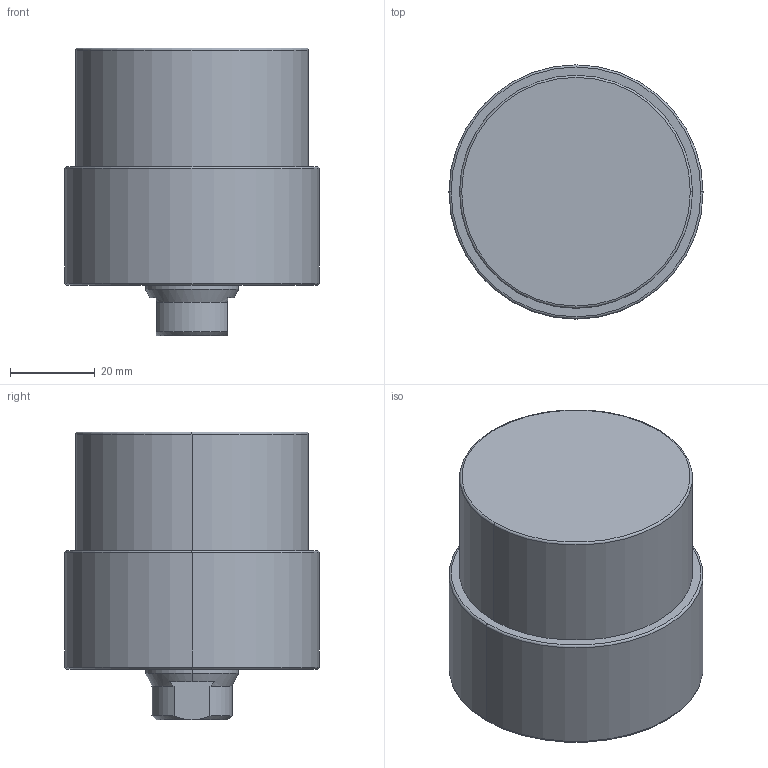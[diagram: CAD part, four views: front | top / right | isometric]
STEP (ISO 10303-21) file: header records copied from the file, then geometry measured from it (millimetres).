
FILE_DESCRIPTION (( 'STEP AP203' ), '1' );
FILE_NAME ('CLLU-055GA-015.STEP', '2020-01-06T06:31:25', ( '' ), ( '' ), 'SwSTEP 2.0', 'SolidWorks 2015', '' );
FILE_SCHEMA (( 'CONFIG_CONTROL_DESIGN' ));
Length unit declared in the file: millimetre
Products named in the file (1): CLLU-055GA-015
Bounding box: 60 x 60 x 68 mm (x, y, z)
Volume: 146024.2 mm3; surface area: 18160.7 mm2
Topology: 1 solids, 1 shells, 62 faces, 138 edges, 77 vertices
Faces by surface type: cone 24, cylinder 22, plane 10, torus 6
Entity records: 1745 total; most frequent: DIRECTION 318, CARTESIAN_POINT 308, ORIENTED_EDGE 256, AXIS2_PLACEMENT_3D 135, EDGE_CURVE 128, VERTEX_POINT 77, CIRCLE 72, EDGE_LOOP 71
